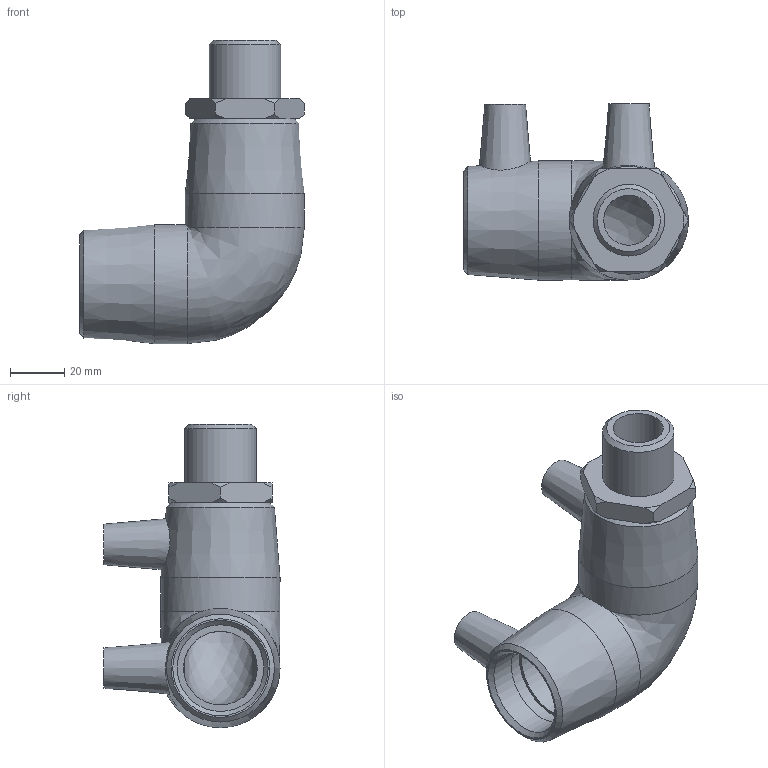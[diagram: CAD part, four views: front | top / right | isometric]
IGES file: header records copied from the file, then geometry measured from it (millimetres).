
Global section: file name: 492504032007.ipt; native system: Autodesk Inventor 2015; preprocessor: unknown; author: KIM; date: 20200202.122332; units: millimetre
Bounding box: 83 x 65 x 112 mm (x, y, z)
Volume: 116892.9 mm3; surface area: 36661.3 mm2
Topology: 1 solids, 2 shells, 59 faces, 143 edges, 96 vertices
Faces by surface type: plane 22, cone 19, revolution 10, cylinder 7, bspline 1
Full cylindrical faces by diameter (mm): 4 x2, 26.441 x1, 32 x2, 44 x2
